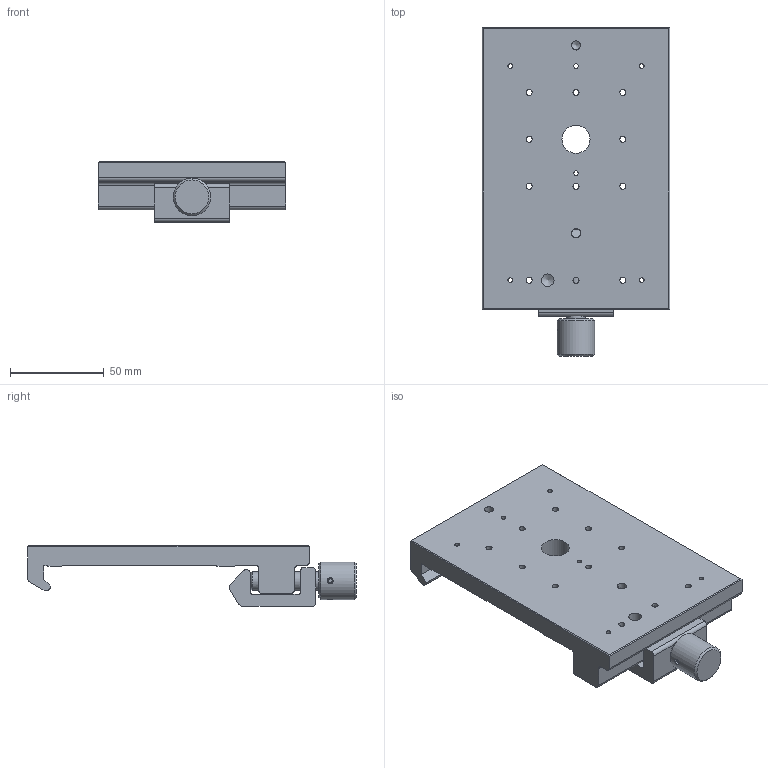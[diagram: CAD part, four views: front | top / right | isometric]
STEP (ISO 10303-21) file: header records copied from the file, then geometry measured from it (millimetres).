
FILE_DESCRIPTION((''),'2;1');
FILE_NAME('Z:\3DDATA\2_OpticalHard\01_国内製品\3_Bases\CAA\CAA-100L\CAA-100L.stp','2010-04-14T15:33:07',('okegawa'),(''),'Autodesk Inventor 2008','Autodesk Inventor 2008','');
FILE_SCHEMA(('AUTOMOTIVE_DESIGN { 1 0 10303 214 1 1 1 1 }'));
Length unit declared in the file: millimetre
Products named in the file (1): CAA-100L-C1-S03
Bounding box: 100 x 175.05 x 32.2 mm (x, y, z)
Volume: 221645.8 mm3; surface area: 54659.3 mm2
Topology: 6 solids, 6 shells, 159 faces, 421 edges, 282 vertices
Faces by surface type: plane 84, bspline 33, cylinder 30, cone 12
Full cylindrical faces by diameter (mm): 3 x4, 3.242 x2, 5.5 x1, 6 x1, 10 x3, 20 x1
Entity records: 5210 total; most frequent: CARTESIAN_POINT 1641, DIRECTION 695, ORIENTED_EDGE 660, EDGE_CURVE 330, EDGE_LOOP 265, AXIS2_PLACEMENT_3D 249, VERTEX_POINT 245, VECTOR 197
